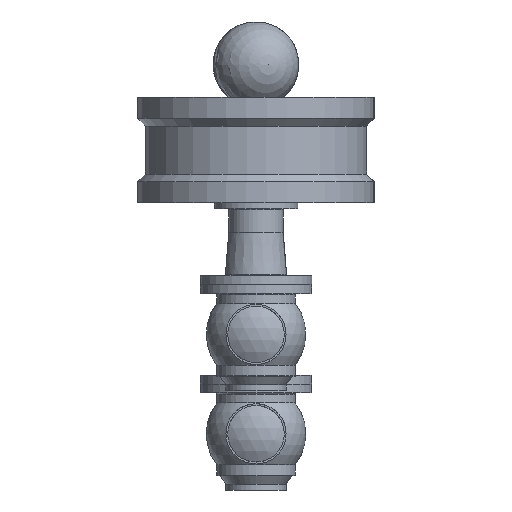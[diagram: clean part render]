
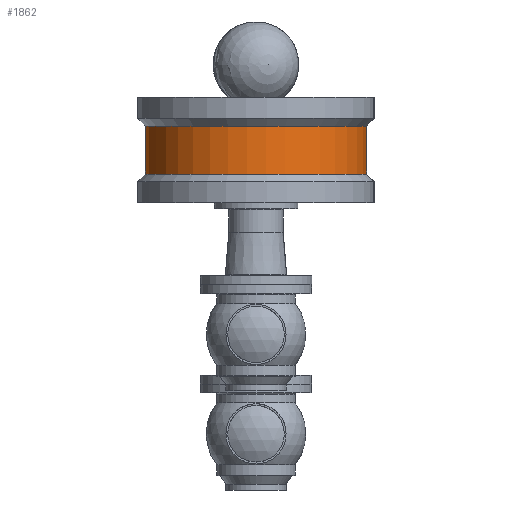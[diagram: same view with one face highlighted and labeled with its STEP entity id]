
A CAD part, left-side view. The second image highlights one B-rep face of the part: STEP entity #1862.
In plain terms, the highlighted cylindrical face has radius 187 mm (diameter 374 mm), a full revolution.
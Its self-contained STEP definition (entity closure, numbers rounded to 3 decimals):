
#207=LINE('',#3304,#255);
#255=VECTOR('',#2590,187.);
#299=CYLINDRICAL_SURFACE('',#2165,187.);
#377=FACE_OUTER_BOUND('',#485,.T.);
#485=EDGE_LOOP('',(#1371,#1372,#1373,#1374,#1375,#1376));
#630=CIRCLE('',#2161,187.);
#631=CIRCLE('',#2162,187.);
#634=CIRCLE('',#2166,187.);
#635=CIRCLE('',#2167,187.);
#832=VERTEX_POINT('',#3290);
#833=VERTEX_POINT('',#3291);
#836=VERTEX_POINT('',#3300);
#837=VERTEX_POINT('',#3301);
#1048=EDGE_CURVE('',#832,#833,#630,.T.);
#1049=EDGE_CURVE('',#833,#832,#631,.T.);
#1053=EDGE_CURVE('',#836,#837,#634,.T.);
#1054=EDGE_CURVE('',#837,#836,#635,.T.);
#1055=EDGE_CURVE('',#837,#833,#207,.T.);
#1371=ORIENTED_EDGE('',*,*,#1053,.F.);
#1372=ORIENTED_EDGE('',*,*,#1054,.F.);
#1373=ORIENTED_EDGE('',*,*,#1055,.T.);
#1374=ORIENTED_EDGE('',*,*,#1049,.T.);
#1375=ORIENTED_EDGE('',*,*,#1048,.T.);
#1376=ORIENTED_EDGE('',*,*,#1055,.F.);
#1862=ADVANCED_FACE('',(#377),#299,.T.);
#2161=AXIS2_PLACEMENT_3D('',#3292,#2575,#2576);
#2162=AXIS2_PLACEMENT_3D('',#3293,#2577,#2578);
#2165=AXIS2_PLACEMENT_3D('',#3299,#2584,#2585);
#2166=AXIS2_PLACEMENT_3D('',#3302,#2586,#2587);
#2167=AXIS2_PLACEMENT_3D('',#3303,#2588,#2589);
#2575=DIRECTION('center_axis',(0.,0.,1.));
#2576=DIRECTION('ref_axis',(1.,0.,0.));
#2577=DIRECTION('center_axis',(0.,0.,1.));
#2578=DIRECTION('ref_axis',(1.,0.,0.));
#2584=DIRECTION('center_axis',(0.,0.,1.));
#2585=DIRECTION('ref_axis',(1.,0.,0.));
#2586=DIRECTION('center_axis',(0.,0.,1.));
#2587=DIRECTION('ref_axis',(1.,0.,0.));
#2588=DIRECTION('center_axis',(0.,0.,1.));
#2589=DIRECTION('ref_axis',(1.,0.,0.));
#2590=DIRECTION('',(0.,0.,-1.));
#3290=CARTESIAN_POINT('',(187.,0.,51.5));
#3291=CARTESIAN_POINT('',(-187.,0.,51.5));
#3292=CARTESIAN_POINT('Origin',(0.,0.,51.5));
#3293=CARTESIAN_POINT('Origin',(0.,0.,51.5));
#3299=CARTESIAN_POINT('Origin',(0.,0.,92.));
#3300=CARTESIAN_POINT('',(187.,0.,132.5));
#3301=CARTESIAN_POINT('',(-187.,0.,132.5));
#3302=CARTESIAN_POINT('Origin',(0.,0.,132.5));
#3303=CARTESIAN_POINT('Origin',(0.,0.,132.5));
#3304=CARTESIAN_POINT('',(-187.,0.,92.));
